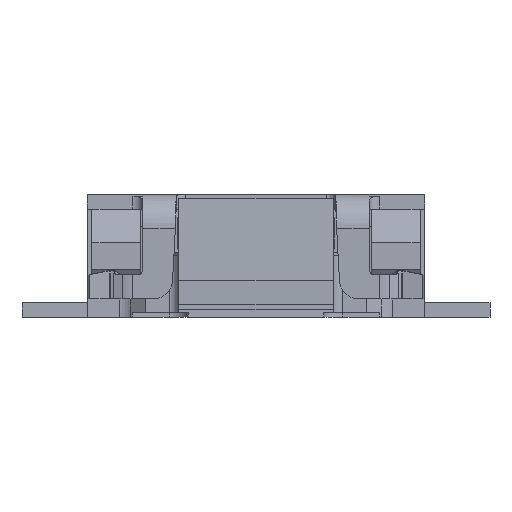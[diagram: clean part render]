
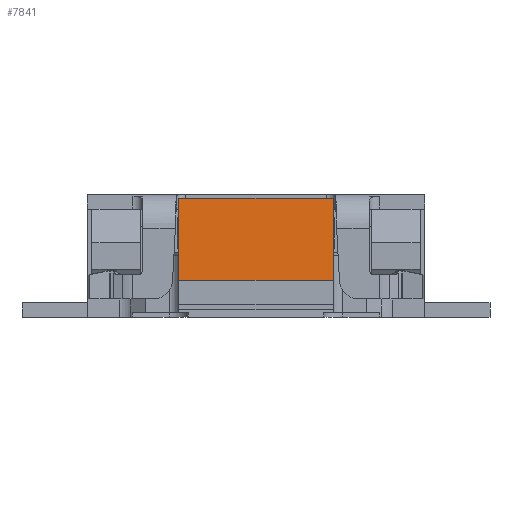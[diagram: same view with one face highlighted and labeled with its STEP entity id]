
A CAD part, front view. The second image highlights one B-rep face of the part: STEP entity #7841.
In plain terms, the highlighted planar face has unit normal (0, -0.998, 0.059).
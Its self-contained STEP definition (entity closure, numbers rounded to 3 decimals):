
#7618 = ORIENTED_EDGE ( 'NONE', *, *, #7619, .T. ) ;
#7619 = EDGE_CURVE ( 'NONE', #7849, #10481, #17468, .T. ) ;
#7841 = ADVANCED_FACE ( 'NONE', ( #18113 ), #18051, .T. ) ;
#7842 = EDGE_LOOP ( 'NONE', ( #7843, #7844, #7847, #7618 ) ) ;
#7843 = ORIENTED_EDGE ( 'NONE', *, *, #10480, .T. ) ;
#7844 = ORIENTED_EDGE ( 'NONE', *, *, #7845, .T. ) ;
#7845 = EDGE_CURVE ( 'NONE', #10477, #7846, #18124, .T. ) ;
#7846 = VERTEX_POINT ( 'NONE', #18095 ) ;
#7847 = ORIENTED_EDGE ( 'NONE', *, *, #7848, .F. ) ;
#7848 = EDGE_CURVE ( 'NONE', #7849, #7846, #18062, .T. ) ;
#7849 = VERTEX_POINT ( 'NONE', #18075 ) ;
#10477 = VERTEX_POINT ( 'NONE', #20209 ) ;
#10480 = EDGE_CURVE ( 'NONE', #10481, #10477, #20208, .T. ) ;
#10481 = VERTEX_POINT ( 'NONE', #20204 ) ;
#17467 = CARTESIAN_POINT ( 'NONE',  ( 0.8, -2.105, 0.385 ) ) ;
#17468 = LINE ( 'NONE', #17467, #17491 ) ;
#17490 = DIRECTION ( 'NONE',  ( 0., 0.059, 0.998 ) ) ;
#17491 = VECTOR ( 'NONE', #17490, 1000. ) ;
#18039 = AXIS2_PLACEMENT_3D ( 'NONE', #18123, #18122, #18114 ) ;
#18051 = PLANE ( 'NONE',  #18039 ) ;
#18062 = LINE ( 'NONE', #18078, #18077 ) ;
#18075 = CARTESIAN_POINT ( 'NONE',  ( 0.8, -2.105, 0.385 ) ) ;
#18076 = DIRECTION ( 'NONE',  ( -1., 0., 0. ) ) ;
#18077 = VECTOR ( 'NONE', #18076, 1000. ) ;
#18078 = CARTESIAN_POINT ( 'NONE',  ( -1.901, -2.105, 0.385 ) ) ;
#18095 = CARTESIAN_POINT ( 'NONE',  ( -0.8, -2.105, 0.385 ) ) ;
#18096 = DIRECTION ( 'NONE',  ( 0., -0.059, -0.998 ) ) ;
#18097 = VECTOR ( 'NONE', #18096, 1000. ) ;
#18098 = CARTESIAN_POINT ( 'NONE',  ( -0.8, -2.055, 1.235 ) ) ;
#18113 = FACE_OUTER_BOUND ( 'NONE', #7842, .T. ) ;
#18114 = DIRECTION ( 'NONE',  ( 0., -0.059, -0.998 ) ) ;
#18122 = DIRECTION ( 'NONE',  ( 0., -0.998, 0.059 ) ) ;
#18123 = CARTESIAN_POINT ( 'NONE',  ( -1.901, -2.105, 0.385 ) ) ;
#18124 = LINE ( 'NONE', #18098, #18097 ) ;
#20204 = CARTESIAN_POINT ( 'NONE',  ( 0.8, -2.055, 1.235 ) ) ;
#20205 = DIRECTION ( 'NONE',  ( -1., 0., 0. ) ) ;
#20206 = VECTOR ( 'NONE', #20205, 1000. ) ;
#20207 = CARTESIAN_POINT ( 'NONE',  ( -1.901, -2.055, 1.235 ) ) ;
#20208 = LINE ( 'NONE', #20207, #20206 ) ;
#20209 = CARTESIAN_POINT ( 'NONE',  ( -0.8, -2.055, 1.235 ) ) ;
